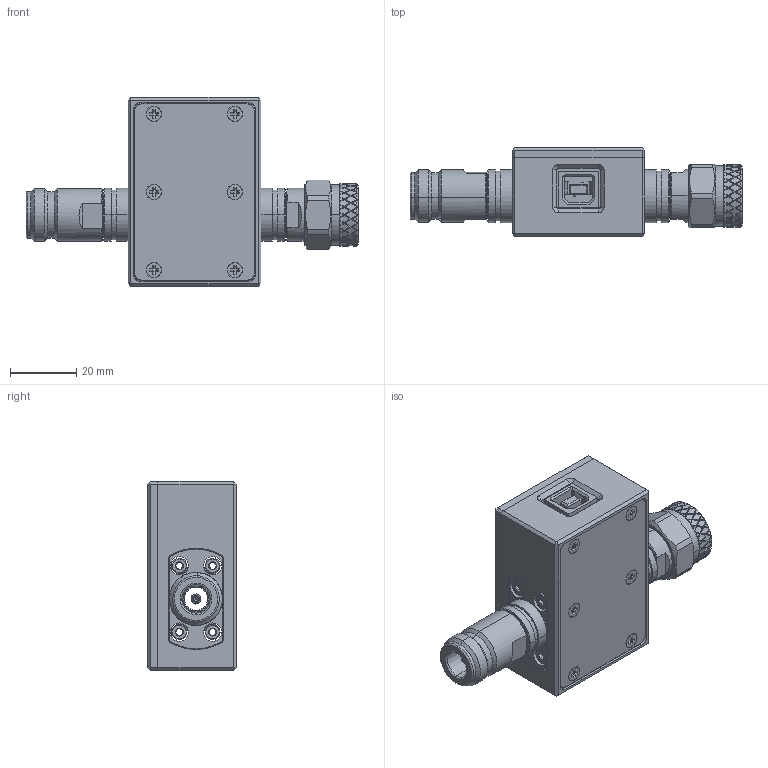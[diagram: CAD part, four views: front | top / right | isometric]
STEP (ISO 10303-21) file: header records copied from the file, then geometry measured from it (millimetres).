
FILE_DESCRIPTION (( 'STEP AP203' ), '1' );
FILE_NAME ('R0385.00.000-05 ACM2520 mod.012.STEP', '2020-06-10T09:29:47', ( '' ), ( '' ), 'SwSTEP 2.0', 'SolidWorks 2014', '' );
FILE_SCHEMA (( 'CONFIG_CONTROL_DESIGN' ));
Length unit declared in the file: millimetre
Products named in the file (1): R0385.00.000-05 ACM2520 mod.012
Bounding box: 99.97 x 26.6 x 57 mm (x, y, z)
Surface area: 22505.9 mm2 (no closed solid volume)
Topology: 0 solids, 42 shells, 1083 faces, 2955 edges, 1921 vertices
Faces by surface type: plane 433, bspline 288, cylinder 232, cone 104, torus 26
Entity records: 42224 total; most frequent: CARTESIAN_POINT 17557, ORIENTED_EDGE 5236, DIRECTION 4192, EDGE_CURVE 2955, VERTEX_POINT 1921, AXIS2_PLACEMENT_3D 1446, LINE 1300, VECTOR 1300
